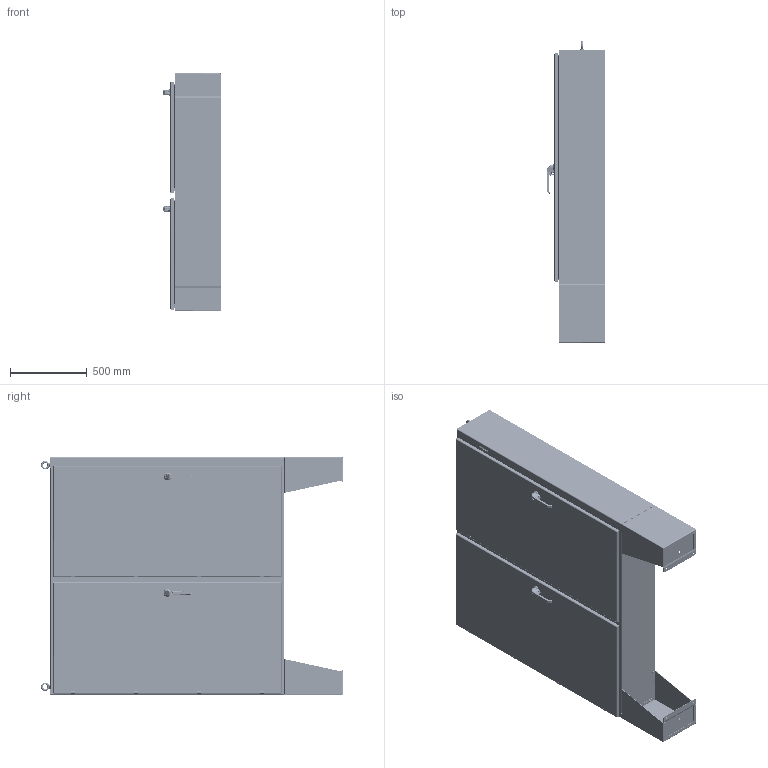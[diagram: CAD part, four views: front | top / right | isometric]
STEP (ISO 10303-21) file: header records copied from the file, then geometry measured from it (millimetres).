
FILE_DESCRIPTION((''),'2;1');
FILE_NAME('MODEL-131_ASM','2021-06-17T11:27:03',('johnh'),('SAGINAW CONTROL & ENGINEERING'),'CREO PARAMETRIC BY PTC INC, 2017260','CREO PARAMETRIC BY PTC INC, 2017260','');
FILE_SCHEMA(('AUTOMOTIVE_DESIGN { 1 0 10303 214 1 1 1 1 }'));
Length unit declared in the file: inch
Products named in the file (124): MODEL-131-BTM; MODEL-131-RS; MODEL-131-LS; MODEL-131-BCK; MODEL-131-TP; MODEL-131-MN-DR; 100837; 111267; 100882; 100952_HANDLE; 100952_HANDLE_INSERT; 100952_SHAFT_CAM; 100952_ADAPTER_CAM; 100952_NUT_CAM; 100952_BASE; 100952_O-RING; 100952_WASHER_SEALING; 100952_NUT_MOUNTING_LARGE; 100952_NUT_MOUNTING_SMALL; 100952_SCREW_SMALL; 100952_INSERT; 100952_PADLOCK_CATCH; 100952_ASM; 102237; 100030; 102237_ASM; MODEL-131-ROD-UPR-MD; 128146; 128145; 128144; 102482; MODEL-131-ROD-UPR-MD_ASM; 128143; 112504; MODEL-131-ROD-LWR-MD; MODEL-131-ROD-LWR-MD_ASM; MODEL-131-PR-GSKT-MD; 128258; 126397; 128258_ASM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
Assembly tree (266 placements, depth 4):
  MODEL-131_ASM
    MODEL-131-BTM
    MODEL-131-RS
    MODEL-131-LS
    MODEL-131-BCK
    MODEL-131-TP
    MODEL-131-M-DOOR-ASSY_ASM
      MODEL-131-MN-DR
      100837  x7
      111267
      100882  x12
      100952_ASM
        100952_HANDLE
        100952_HANDLE_INSERT
        100952_SHAFT_CAM
        100952_ADAPTER_CAM
        100952_NUT_CAM
        100952_BASE
        100952_O-RING
        100952_WASHER_SEALING
        100952_NUT_MOUNTING_LARGE
        100952_NUT_MOUNTING_SMALL
        100952_SCREW_SMALL
        100952_INSERT
        100952_PADLOCK_CATCH
      102237_ASM
        102237
        100030  x2
      MODEL-131-ROD-UPR-MD_ASM
        MODEL-131-ROD-UPR-MD
        128146
        128145
        128144
        102482  x2
      128143  x2
      112504  x2
      MODEL-131-ROD-LWR-MD_ASM
        MODEL-131-ROD-LWR-MD
        128146
        128145
        128144
        102482  x2
      MODEL-131-PR-GSKT-MD
      128258_ASM  x4
        128258
        126397
      126395  x4
      102483  x4
      101383_ASM  x4
        101383
        101383-STUD
      101221  x4
    MODEL-131-S-DOOR-ASSY_ASM
      MODEL-131-SEC-DR
      100837  x3
      100956_ASM
        100956_HANDLE
        100956_HANDLE_INSERT
        100956_SHAFT_CAM
        100956_ADAPTER_CAM
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Bounding box: 382.17 x 1966.16 x 1549.4 mm (x, y, z)
Volume: 30818503.7 mm3; surface area: 22127343.5 mm2
Topology: 288 solids, 288 shells, 21056 faces, 54185 edges, 33733 vertices
Faces by surface type: plane 7487, cylinder 5627, bspline 4666, cone 1375, torus 1353, sphere 548
Entity records: 409447 total; most frequent: CARTESIAN_POINT 123156, ORIENTED_EDGE 40918, DIRECTION 38728, EDGE_CURVE 20459, PRESENTATION_STYLE_ASSIGNMENT 20248, STYLED_ITEM 19944, CURVE_STYLE 18794, AXIS2_PLACEMENT_3D 14449
